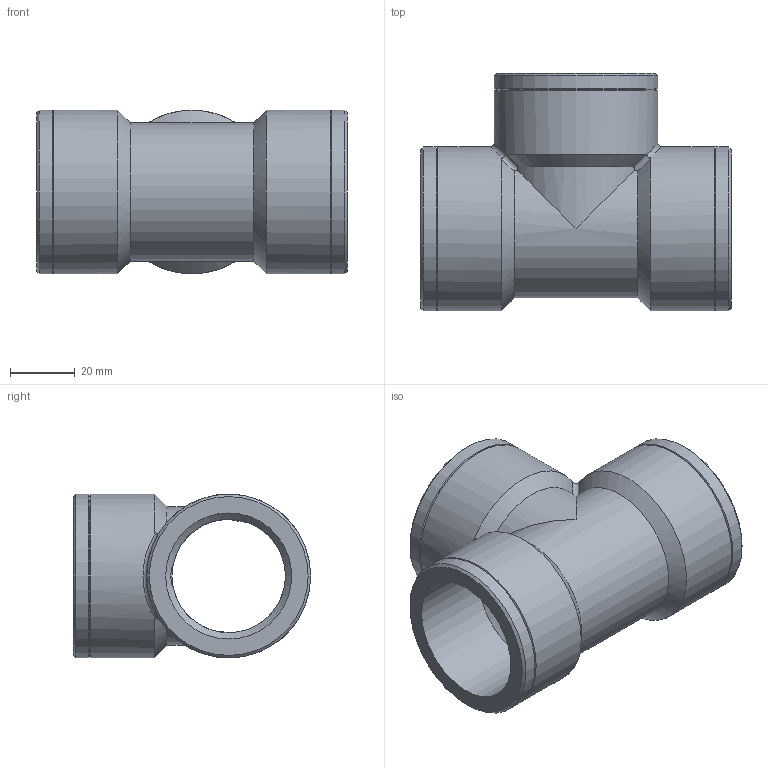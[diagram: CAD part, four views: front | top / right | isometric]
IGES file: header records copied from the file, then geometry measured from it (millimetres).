
Global section: file name: 050407013_0504070130A.ipt; native system: Autodesk Inventor 2015; preprocessor: unknown; author: KIM; date: 20170618.093203; units: millimetre
Bounding box: 96 x 73.32 x 50.64 mm (x, y, z)
Volume: 84644.1 mm3; surface area: 35007.5 mm2
Topology: 1 solids, 1 shells, 41 faces, 114 edges, 74 vertices
Faces by surface type: cone 13, cylinder 11, revolution 8, bspline 6, plane 3
Full cylindrical faces by diameter (mm): 50.638 x6
